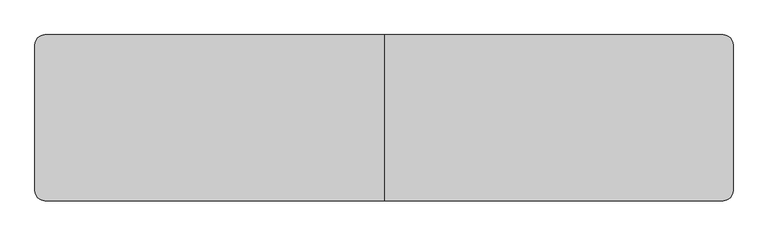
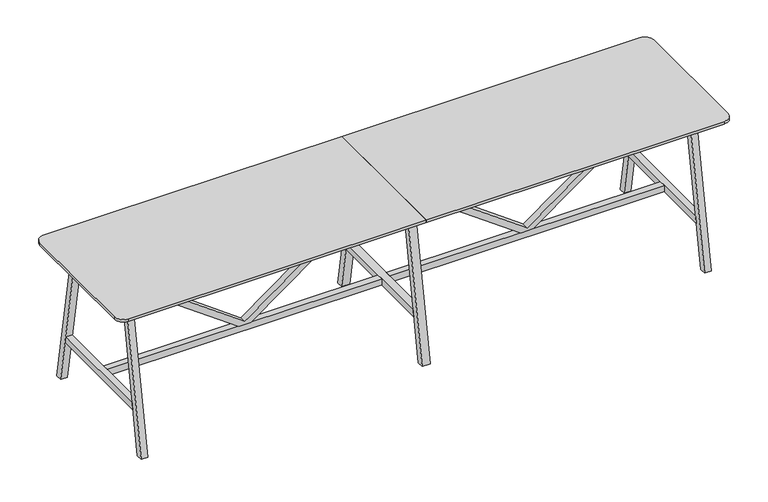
"""IFC4 building model written with IfcOpenShell, lengths in millimetres: furniture geometry, BDG_BossDesign_Tbls_AgentTables6Legs : AGE-HT-6L-4200-1000-3D."""

from ifc_helpers import new_model, si_unit, point, frame, frame_2d, origin, place, context, project, spatial, polyline, circle_curve, trimmed, segment, composite_curve, outline, extrude, source, transform, mapped, element, save


def furniture_9e24929a(model_context):
    return source(origin(), model_context, "Body", "SweptSolid", [
        extrude(outline(polyline([(345.0, 924.0823957), (345.0, 1008.4176043), (992.0, 1905.0), (1032.0, 1905.0), (1032.0, 1885.0), (365.0, 966.25), (1032.0, 47.5), (1032.0, 27.5), (992.0, 27.5), (345.0, 924.0823957)])), frame((0.0, -22.5000305, 0.0), z_axis=(0.0, 1.0, 0.0), x_axis=(0.0, 0.0, 1.0)), (0.0, 0.0, 1.0), 45.000061),
        extrude(outline(polyline([(345.0, -924.0823957), (992.0, -27.5), (1032.0, -27.5), (1032.0, -47.5), (365.0, -966.25), (1032.0, -1885.0), (1032.0, -1905.0), (992.0, -1905.0), (345.0, -1008.4176043), (345.0, -924.0823957)])), frame((0.0, -22.5000305, 0.0), z_axis=(0.0, 1.0, 0.0), x_axis=(0.0, 0.0, 1.0)), (0.0, 0.0, 1.0), 45.000061),
        extrude(outline(polyline([(500.0, 0.0), (454.9999949, 0.0), (285.5, 970.0), (330.5000051, 970.0), (500.0, 0.0)])), frame((-27.5, 0.0, 0.0), z_axis=(1.0, 0.0, 0.0), x_axis=(0.0, 1.0, 0.0)), (0.0, 0.0, 1.0), 55.0),
        extrude(outline(polyline([(-500.0, 0.0), (-330.5000051, 970.0), (-285.5, 970.0), (-454.9999949, 0.0), (-500.0, 0.0)])), frame((-27.5, 0.0, 0.0), z_axis=(1.0, 0.0, 0.0), x_axis=(0.0, 1.0, 0.0)), (0.0, 0.0, 1.0), 55.0),
        extrude(outline(polyline([(402.5773161, 300.0), (-402.5773161, 300.0), (-394.7139143, 345.0), (394.7139143, 345.0), (402.5773161, 300.0)])), frame((-27.5, 0.0, 0.0), z_axis=(1.0, 0.0, 0.0), x_axis=(0.0, 1.0, 0.0)), (0.0, 0.0, 1.0), 55.0),
        extrude(outline(composite_curve([segment(polyline([(0.0, 500.0), (0.0, -500.0), (-2040.0, -500.0)]), True, "CONTINUOUS"), segment(trimmed(circle_curve(frame_2d((-2040.0, -440.0)), 60.0), [point((-2040.0, -500.0))], [point((-2100.0, -440.0))], False, "CARTESIAN"), True, "CONTINUOUS"), segment(polyline([(-2100.0, -440.0), (-2100.0, 440.0)]), True, "CONTINUOUS"), segment(trimmed(circle_curve(frame_2d((-2040.0, 440.0)), 60.0), [point((-2100.0, 440.0))], [point((-2040.0, 500.0))], False, "CARTESIAN"), True, "CONTINUOUS"), segment(polyline([(-2040.0, 500.0), (0.0, 500.0)]), True, "CONTINUOUS")], self_intersect=False)), frame((0.0, 0.0, 1032.0), z_axis=(0.0, 0.0, 1.0), x_axis=(1.0, 0.0, 0.0)), (0.0, 0.0, 1.0), 18.0),
        extrude(outline(polyline([(-394.7139143, 345.0), (394.7139143, 345.0), (402.5773161, 300.0), (-402.5773161, 300.0), (-394.7139143, 345.0)])), frame((1905.0, 0.0, 0.0), z_axis=(1.0, 0.0, 0.0), x_axis=(0.0, 1.0, 0.0)), (0.0, 0.0, 1.0), 45.0),
        extrude(outline(polyline([(500.0, 0.0), (454.9999949, 0.0), (285.5, 970.0), (330.5000051, 970.0), (500.0, 0.0)])), frame((-1950.0, 0.0, 0.0), z_axis=(1.0, 0.0, 0.0), x_axis=(0.0, 1.0, 0.0)), (0.0, 0.0, 1.0), 45.0),
        extrude(outline(polyline([(-500.0, 0.0), (-330.5000051, 970.0), (-285.5, 970.0), (-454.9999949, 0.0), (-500.0, 0.0)])), frame((-1950.0, 0.0, 0.0), z_axis=(1.0, 0.0, 0.0), x_axis=(0.0, 1.0, 0.0)), (0.0, 0.0, 1.0), 45.0),
        extrude(outline(polyline([(-394.7139143, 345.0), (394.7139143, 345.0), (402.5773161, 300.0), (-402.5773161, 300.0), (-394.7139143, 345.0)])), frame((-1950.0, 0.0, 0.0), z_axis=(1.0, 0.0, 0.0), x_axis=(0.0, 1.0, 0.0)), (0.0, 0.0, 1.0), 45.0),
        extrude(outline(polyline([(-326.6006165, 944.973938), (-304.2770691, 1032.0), (-279.5, 1032.0), (-301.8235474, 944.973938), (-326.6006165, 944.973938)])), frame((-1905.0, 0.0, 0.0), z_axis=(1.0, 0.0, 0.0), x_axis=(0.0, 1.0, 0.0)), (0.0, 0.0, 1.0), 3810.0),
        extrude(outline(polyline([(326.6006165, 944.973938), (301.8235474, 944.973938), (279.5, 1032.0), (304.2770691, 1032.0), (326.6006165, 944.973938)])), frame((-1905.0, 0.0, 0.0), z_axis=(1.0, 0.0, 0.0), x_axis=(0.0, 1.0, 0.0)), (0.0, 0.0, 1.0), 3810.0),
        extrude(outline(polyline([(499.7999878, 0.0), (454.7999827, 0.0), (285.5, 970.0), (330.5000051, 970.0), (499.7999878, 0.0)])), frame((1905.0, 0.0, 0.0), z_axis=(1.0, 0.0, 0.0), x_axis=(0.0, 1.0, 0.0)), (0.0, 0.0, 1.0), 45.0),
        extrude(outline(polyline([(-499.7999878, 0.0), (-330.5000051, 970.0), (-285.5, 970.0), (-454.7999827, 0.0), (-499.7999878, 0.0)])), frame((1905.0, 0.0, 0.0), z_axis=(1.0, 0.0, 0.0), x_axis=(0.0, 1.0, 0.0)), (0.0, 0.0, 1.0), 45.0),
        extrude(outline(polyline([(-27.5, 22.5000305), (-27.5, -22.5000305), (-1905.0, -22.5000305), (-1905.0, 22.5000305), (-27.5, 22.5000305)])), frame((0.0, 0.0, 300.0), z_axis=(0.0, 0.0, 1.0), x_axis=(1.0, 0.0, 0.0)), (0.0, 0.0, 1.0), 45.0),
        extrude(outline(polyline([(27.5, -22.5000305), (27.5, 22.5000305), (1905.0, 22.5000305), (1905.0, -22.5000305), (27.5, -22.5000305)])), frame((0.0, 0.0, 300.0), z_axis=(0.0, 0.0, 1.0), x_axis=(1.0, 0.0, 0.0)), (0.0, 0.0, 1.0), 45.0),
        extrude(outline(composite_curve([segment(trimmed(circle_curve(frame_2d((2040.0, 440.0)), 60.0), [point((2040.0, 500.0))], [point((2100.0, 440.0))], False, "CARTESIAN"), True, "CONTINUOUS"), segment(polyline([(2100.0, 440.0), (2100.0, -440.0)]), True, "CONTINUOUS"), segment(trimmed(circle_curve(frame_2d((2040.0, -440.0)), 60.0), [point((2100.0, -440.0))], [point((2040.0, -500.0))], False, "CARTESIAN"), True, "CONTINUOUS"), segment(polyline([(2040.0, -500.0), (0.0, -500.0), (0.0, 500.0), (2040.0, 500.0)]), True, "CONTINUOUS")], self_intersect=False)), frame((0.0, 0.0, 1032.0), z_axis=(0.0, 0.0, 1.0), x_axis=(1.0, 0.0, 0.0)), (0.0, 0.0, 1.0), 18.0),
    ])


if __name__ == "__main__":
    model = new_model("IFC4")
    model_context = context("Model", 3, world=origin())
    ifc_project = project(units=[si_unit("LENGTHUNIT", "METRE", prefix="MILLI")], contexts=[model_context])
    site = spatial("IfcSite", under=ifc_project)
    building = spatial("IfcBuilding", under=site)
    placement = place(None, origin())
    furniture_shape = furniture_9e24929a(model_context)
    element("IfcFurniture", 1, ObjectType="BDG_BossDesign_Tbls_AgentTables6Legs : AGE-HT-6L-4200-1000-3D", at=placement, inside=building, context=model_context, shape_type="MappedRepresentation", body=[
        mapped(furniture_shape, transform((0.0, 0.0, 0.0), x_axis=(1.0, 0.0, 0.0), y_axis=(0.0, 1.0, 0.0), z_axis=(0.0, 0.0, 1.0))),
    ])
    save(model, "model.ifc")
